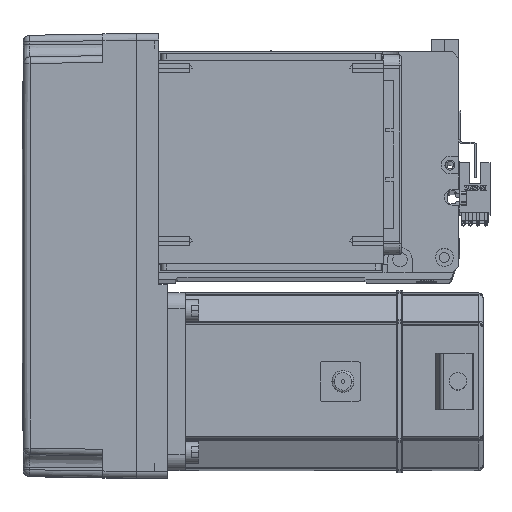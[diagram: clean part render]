
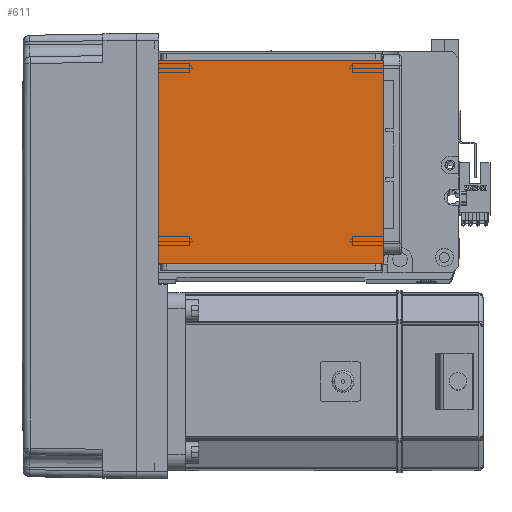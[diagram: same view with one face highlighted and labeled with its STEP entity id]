
A CAD part, top view. The second image highlights one B-rep face of the part: STEP entity #611.
In plain terms, the highlighted planar face has unit normal (0, 0, 1).
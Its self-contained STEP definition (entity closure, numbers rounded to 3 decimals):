
#611 = ADVANCED_FACE ( 'NONE', ( #656 ), #31035, .T. ) ;
#656 = FACE_OUTER_BOUND ( 'NONE', #27465, .T. ) ;
#2322 = EDGE_CURVE ( 'NONE', #27684, #3558, #54478, .T. ) ;
#3558 = VERTEX_POINT ( 'NONE', #42673 ) ;
#3818 = CARTESIAN_POINT ( 'NONE',  ( -50.5, 20., 115. ) ) ;
#4061 = CARTESIAN_POINT ( 'NONE',  ( -70.004, 20., 115. ) ) ;
#6318 = DIRECTION ( 'NONE',  ( 0., 1., 0. ) ) ;
#6504 = CARTESIAN_POINT ( 'NONE',  ( 50.5, 20., 115. ) ) ;
#8223 = VECTOR ( 'NONE', #42780, 1000. ) ;
#8593 = LINE ( 'NONE', #4061, #46349 ) ;
#12647 = ORIENTED_EDGE ( 'NONE', *, *, #48835, .F. ) ;
#13746 = ORIENTED_EDGE ( 'NONE', *, *, #32003, .F. ) ;
#17561 = LINE ( 'NONE', #18453, #27295 ) ;
#18453 = CARTESIAN_POINT ( 'NONE',  ( -70.004, 111.5, 115. ) ) ;
#19400 = LINE ( 'NONE', #47620, #8223 ) ;
#19513 = AXIS2_PLACEMENT_3D ( 'NONE', #22458, #48893, #22278 ) ;
#22278 = DIRECTION ( 'NONE',  ( 1., 0., 0. ) ) ;
#22458 = CARTESIAN_POINT ( 'NONE',  ( 0., 0., 115. ) ) ;
#25003 = VECTOR ( 'NONE', #6318, 1000. ) ;
#25371 = CARTESIAN_POINT ( 'NONE',  ( -50.5, 111.5, 115. ) ) ;
#26639 = VERTEX_POINT ( 'NONE', #25371 ) ;
#27295 = VECTOR ( 'NONE', #54259, 1000. ) ;
#27465 = EDGE_LOOP ( 'NONE', ( #13746, #35552, #12647, #47804 ) ) ;
#27684 = VERTEX_POINT ( 'NONE', #6504 ) ;
#28741 = VERTEX_POINT ( 'NONE', #3818 ) ;
#31035 = PLANE ( 'NONE',  #19513 ) ;
#32003 = EDGE_CURVE ( 'NONE', #26639, #3558, #17561, .T. ) ;
#35552 = ORIENTED_EDGE ( 'NONE', *, *, #46450, .T. ) ;
#42673 = CARTESIAN_POINT ( 'NONE',  ( 50.5, 111.5, 115. ) ) ;
#42780 = DIRECTION ( 'NONE',  ( 0., -1., 0. ) ) ;
#46349 = VECTOR ( 'NONE', #53363, 1000. ) ;
#46450 = EDGE_CURVE ( 'NONE', #26639, #28741, #19400, .T. ) ;
#47620 = CARTESIAN_POINT ( 'NONE',  ( -50.5, 122., 115. ) ) ;
#47804 = ORIENTED_EDGE ( 'NONE', *, *, #2322, .T. ) ;
#48835 = EDGE_CURVE ( 'NONE', #27684, #28741, #8593, .T. ) ;
#48893 = DIRECTION ( 'NONE',  ( 0., 0., 1. ) ) ;
#51498 = CARTESIAN_POINT ( 'NONE',  ( 50.5, 122., 115. ) ) ;
#53363 = DIRECTION ( 'NONE',  ( -1., 0., 0. ) ) ;
#54259 = DIRECTION ( 'NONE',  ( 1., 0., 0. ) ) ;
#54478 = LINE ( 'NONE', #51498, #25003 ) ;
